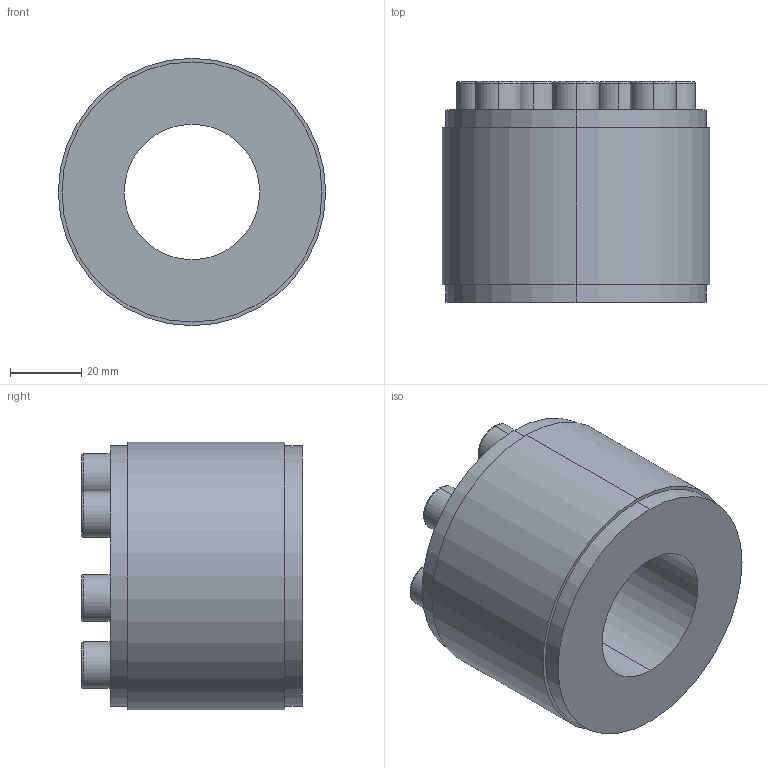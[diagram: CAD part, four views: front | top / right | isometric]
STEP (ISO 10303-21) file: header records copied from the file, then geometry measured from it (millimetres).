
FILE_DESCRIPTION (( 'STEP AP203' ), '1' );
FILE_NAME ('PL-D1 38-75.STEP', '2021-10-22T08:53:26', ( '' ), ( '' ), 'SwSTEP 2.0', 'SolidWorks 2018', '' );
FILE_SCHEMA (( 'CONFIG_CONTROL_DESIGN' ));
Length unit declared in the file: millimetre
Products named in the file (1): PL-D1 38-75
Bounding box: 75 x 62 x 75 mm (x, y, z)
Volume: 181542.7 mm3; surface area: 28481.6 mm2
Topology: 1 solids, 1 shells, 96 faces, 220 edges, 142 vertices
Faces by surface type: plane 60, cylinder 22, torus 14
Entity records: 2785 total; most frequent: DIRECTION 486, CARTESIAN_POINT 459, ORIENTED_EDGE 440, EDGE_CURVE 220, AXIS2_PLACEMENT_3D 169, VECTOR 148, LINE 148, VERTEX_POINT 142
